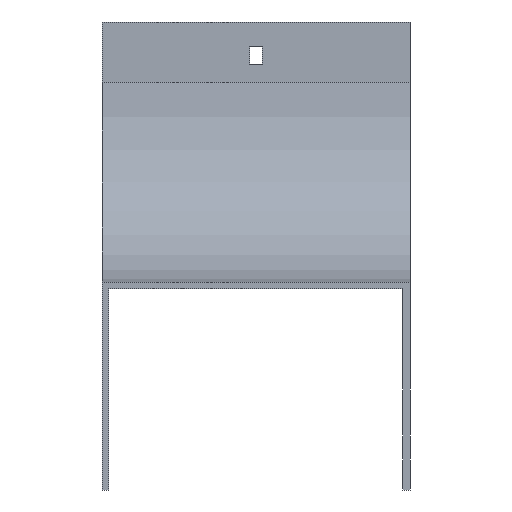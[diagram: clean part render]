
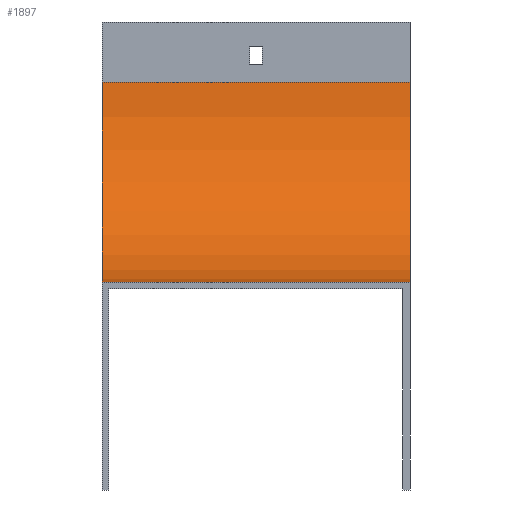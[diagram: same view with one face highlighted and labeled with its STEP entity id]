
A CAD part, front view. The second image highlights one B-rep face of the part: STEP entity #1897.
In plain terms, the highlighted cylindrical face has radius 100 mm (diameter 200 mm), a partial arc.
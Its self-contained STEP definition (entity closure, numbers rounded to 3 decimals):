
#165 = DIRECTION ( 'NONE',  ( 0., 0., 1. ) ) ;
#348 = ORIENTED_EDGE ( 'NONE', *, *, #1882, .F. ) ;
#381 = VECTOR ( 'NONE', #571, 1000. ) ;
#395 = ORIENTED_EDGE ( 'NONE', *, *, #1598, .T. ) ;
#490 = DIRECTION ( 'NONE',  ( 0., 0., 1. ) ) ;
#532 = CARTESIAN_POINT ( 'NONE',  ( 77., -100., -130. ) ) ;
#545 = CARTESIAN_POINT ( 'NONE',  ( 77., -100., -30. ) ) ;
#552 = DIRECTION ( 'NONE',  ( 0., 0., 1. ) ) ;
#571 = DIRECTION ( 'NONE',  ( -1., 0., 0. ) ) ;
#596 = CARTESIAN_POINT ( 'NONE',  ( 77., -100., -130. ) ) ;
#605 = CARTESIAN_POINT ( 'NONE',  ( -77., -100., -30. ) ) ;
#628 = CIRCLE ( 'NONE', #1491, 100. ) ;
#683 = LINE ( 'NONE', #532, #381 ) ;
#713 = VERTEX_POINT ( 'NONE', #1476 ) ;
#735 = VERTEX_POINT ( 'NONE', #981 ) ;
#884 = VERTEX_POINT ( 'NONE', #596 ) ;
#921 = AXIS2_PLACEMENT_3D ( 'NONE', #605, #1693, #490 ) ;
#938 = CARTESIAN_POINT ( 'NONE',  ( 77., 0., -30. ) ) ;
#981 = CARTESIAN_POINT ( 'NONE',  ( -77., -100., -130. ) ) ;
#1017 = DIRECTION ( 'NONE',  ( -1., 0., 0. ) ) ;
#1022 = EDGE_LOOP ( 'NONE', ( #1360, #348, #1346, #395 ) ) ;
#1027 = FACE_OUTER_BOUND ( 'NONE', #1022, .T. ) ;
#1046 = DIRECTION ( 'NONE',  ( -1., 0., 0. ) ) ;
#1190 = VERTEX_POINT ( 'NONE', #1670 ) ;
#1217 = EDGE_CURVE ( 'NONE', #1190, #735, #1826, .T. ) ;
#1295 = CYLINDRICAL_SURFACE ( 'NONE', #1892, 100. ) ;
#1346 = ORIENTED_EDGE ( 'NONE', *, *, #1560, .F. ) ;
#1360 = ORIENTED_EDGE ( 'NONE', *, *, #1217, .T. ) ;
#1476 = CARTESIAN_POINT ( 'NONE',  ( 77., 0., -30. ) ) ;
#1491 = AXIS2_PLACEMENT_3D ( 'NONE', #545, #1689, #165 ) ;
#1560 = EDGE_CURVE ( 'NONE', #713, #884, #628, .T. ) ;
#1598 = EDGE_CURVE ( 'NONE', #713, #1190, #1813, .T. ) ;
#1670 = CARTESIAN_POINT ( 'NONE',  ( -77., 0., -30. ) ) ;
#1689 = DIRECTION ( 'NONE',  ( -1., 0., 0. ) ) ;
#1693 = DIRECTION ( 'NONE',  ( -1., 0., 0. ) ) ;
#1738 = VECTOR ( 'NONE', #1046, 1000. ) ;
#1772 = CARTESIAN_POINT ( 'NONE',  ( 77., -100., -30. ) ) ;
#1813 = LINE ( 'NONE', #938, #1738 ) ;
#1826 = CIRCLE ( 'NONE', #921, 100. ) ;
#1882 = EDGE_CURVE ( 'NONE', #884, #735, #683, .T. ) ;
#1892 = AXIS2_PLACEMENT_3D ( 'NONE', #1772, #1017, #552 ) ;
#1897 = ADVANCED_FACE ( 'NONE', ( #1027 ), #1295, .F. ) ;
